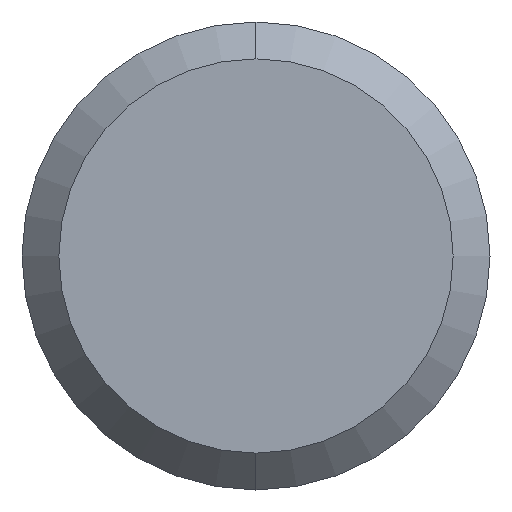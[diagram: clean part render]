
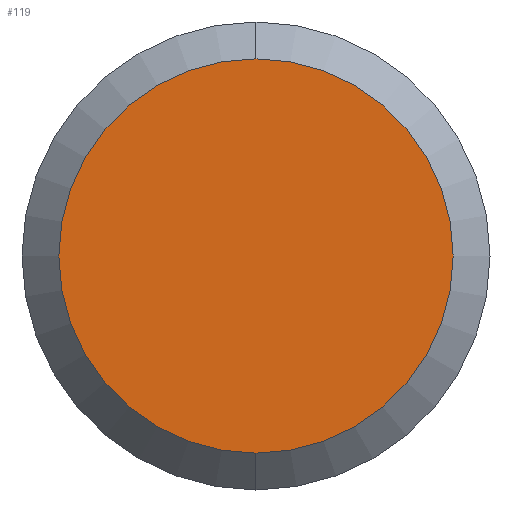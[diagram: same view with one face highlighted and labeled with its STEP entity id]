
A CAD part, left-side view. The second image highlights one B-rep face of the part: STEP entity #119.
In plain terms, the highlighted planar face has unit normal (-1, 0, 0).
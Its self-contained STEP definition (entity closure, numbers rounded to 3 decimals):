
#8 = DIRECTION ( 'NONE',  ( 1., 0., 0. ) ) ;
#20 = DIRECTION ( 'NONE',  ( 0., 0., -1. ) ) ;
#36 = EDGE_CURVE ( 'NONE', #192, #356, #333, .T. ) ;
#62 = FACE_OUTER_BOUND ( 'NONE', #259, .T. ) ;
#88 = ORIENTED_EDGE ( 'NONE', *, *, #299, .T. ) ;
#119 = ADVANCED_FACE ( 'NONE', ( #62 ), #291, .F. ) ;
#163 = DIRECTION ( 'NONE',  ( 0., 0., -1. ) ) ;
#192 = VERTEX_POINT ( 'NONE', #294 ) ;
#195 = DIRECTION ( 'NONE',  ( 0., 0., -1. ) ) ;
#206 = CARTESIAN_POINT ( 'NONE',  ( -109.6, 6.35, 0. ) ) ;
#212 = DIRECTION ( 'NONE',  ( -1., 0., 0. ) ) ;
#259 = EDGE_LOOP ( 'NONE', ( #369, #88 ) ) ;
#268 = AXIS2_PLACEMENT_3D ( 'NONE', #396, #212, #20 ) ;
#269 = CIRCLE ( 'NONE', #268, 5.35 ) ;
#274 = AXIS2_PLACEMENT_3D ( 'NONE', #311, #326, #195 ) ;
#291 = PLANE ( 'NONE',  #397 ) ;
#294 = CARTESIAN_POINT ( 'NONE',  ( -109.6, 0., -5.35 ) ) ;
#299 = EDGE_CURVE ( 'NONE', #356, #192, #269, .T. ) ;
#311 = CARTESIAN_POINT ( 'NONE',  ( -109.6, 0., 0. ) ) ;
#326 = DIRECTION ( 'NONE',  ( -1., 0., 0. ) ) ;
#333 = CIRCLE ( 'NONE', #274, 5.35 ) ;
#356 = VERTEX_POINT ( 'NONE', #379 ) ;
#369 = ORIENTED_EDGE ( 'NONE', *, *, #36, .T. ) ;
#379 = CARTESIAN_POINT ( 'NONE',  ( -109.6, 0., 5.35 ) ) ;
#396 = CARTESIAN_POINT ( 'NONE',  ( -109.6, 0., 0. ) ) ;
#397 = AXIS2_PLACEMENT_3D ( 'NONE', #206, #8, #163 ) ;
